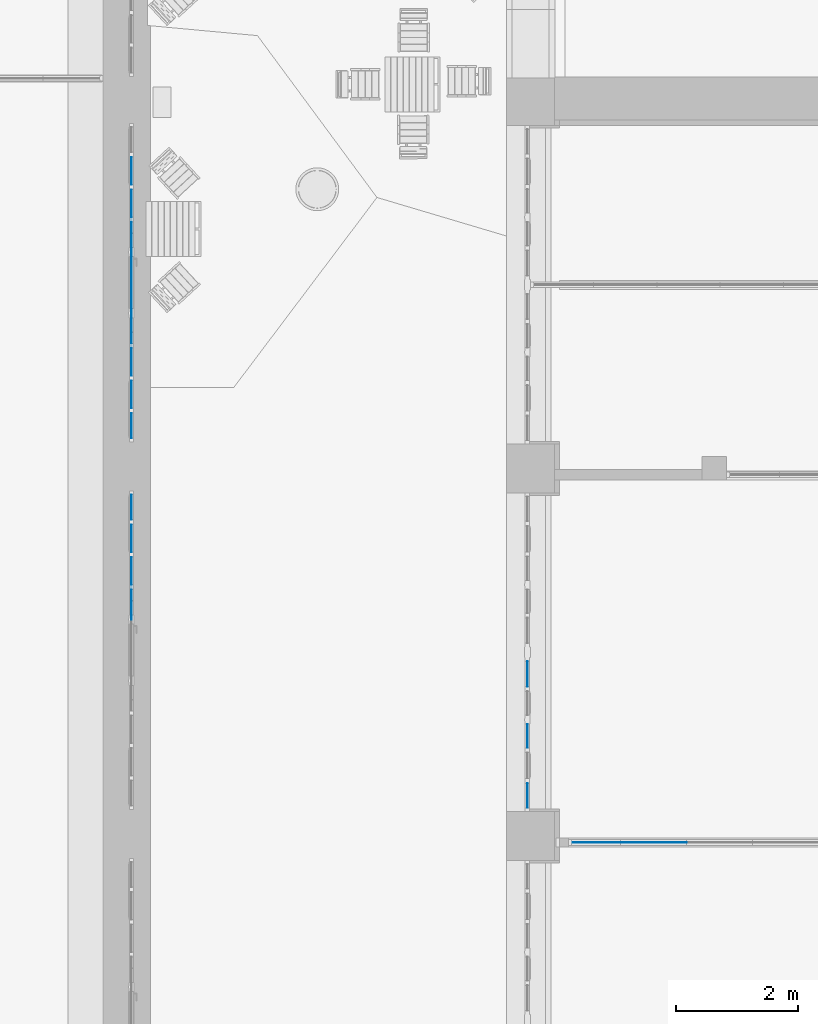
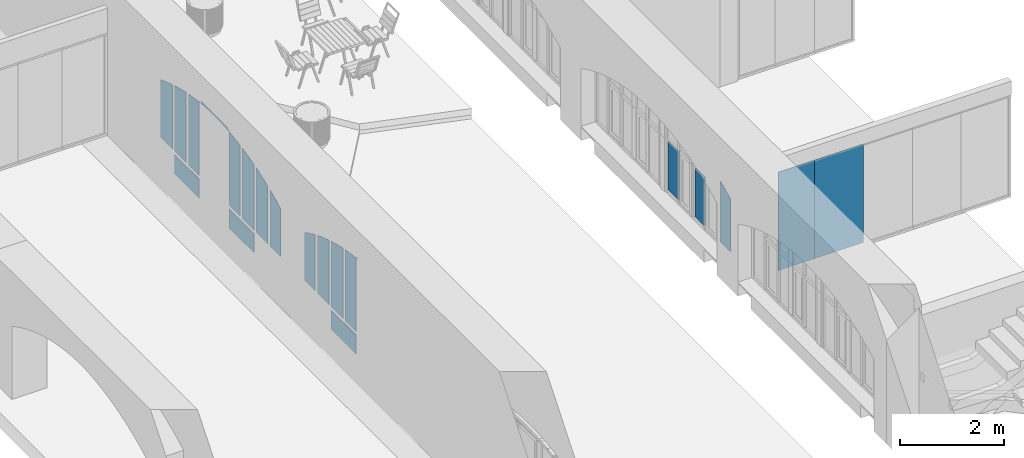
# One storey, part 64 of 88: 20 plates, 4 elements without a shape of their own.
"""IFC2X3 building model written with IfcOpenShell, lengths in millimetres."""

from ifc_helpers import new_model, entity, si_unit, converted_unit, derived_unit, direction, frame, frame_2d, origin, origin_2d_with_axis, place, context, subcontext, project, spatial, polyline, circle_curve, parameter, trimmed, segment, composite_curve, rectangle, outline, extrude, face_set, surface_model, source, transform, mapped, material, type_object, type_shapes, element, aggregate, save


model = new_model("IFC2X3")

# Units and contexts
model_context = context("Model", 3, precision=0.01, world=origin(), true_north=direction((6.123031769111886e-17, 1.0)))
body_context = subcontext(model_context, "Body", "Model", "MODEL_VIEW")
ifc_project = project(units=[si_unit("LENGTHUNIT", "METRE", prefix="MILLI"), si_unit("AREAUNIT", "SQUARE_METRE"), si_unit("VOLUMEUNIT", "CUBIC_METRE"), converted_unit("PLANEANGLEUNIT", "DEGREE", entity("IfcPlaneAngleMeasure", 0.017453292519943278), si_unit("PLANEANGLEUNIT", "RADIAN"), dimensions=[0, 0, 0, 0, 0, 0, 0]), si_unit("MASSUNIT", "GRAM", prefix="KILO"), derived_unit("MASSDENSITYUNIT", [(si_unit("MASSUNIT", "GRAM", prefix="KILO"), 1), (si_unit("LENGTHUNIT", "METRE"), -3)]), derived_unit("IONCONCENTRATIONUNIT", [(si_unit("MASSUNIT", "GRAM", prefix="KILO"), 1), (si_unit("LENGTHUNIT", "METRE"), -3)]), derived_unit("MOMENTOFINERTIAUNIT", [(si_unit("LENGTHUNIT", "METRE"), 4)]), si_unit("TIMEUNIT", "SECOND"), si_unit("FREQUENCYUNIT", "HERTZ"), si_unit("THERMODYNAMICTEMPERATUREUNIT", "DEGREE_CELSIUS"), derived_unit("THERMALTRANSMITTANCEUNIT", [(si_unit("MASSUNIT", "GRAM", prefix="KILO"), 1), (si_unit("THERMODYNAMICTEMPERATUREUNIT", "KELVIN"), -1), (si_unit("TIMEUNIT", "SECOND"), -3)]), derived_unit("THERMALCONDUCTANCEUNIT", [(si_unit("MASSUNIT", "GRAM", prefix="KILO"), 1), (si_unit("THERMODYNAMICTEMPERATUREUNIT", "KELVIN"), -1), (si_unit("TIMEUNIT", "SECOND"), -3), (si_unit("LENGTHUNIT", "METRE"), 1)]), derived_unit("VOLUMETRICFLOWRATEUNIT", [(si_unit("LENGTHUNIT", "METRE", prefix="DECI"), 3), (si_unit("TIMEUNIT", "SECOND"), -1)]), derived_unit("MASSFLOWRATEUNIT", [(si_unit("MASSUNIT", "GRAM", prefix="KILO"), 1), (si_unit("TIMEUNIT", "SECOND"), -1)]), derived_unit("ROTATIONALFREQUENCYUNIT", [(si_unit("TIMEUNIT", "SECOND"), -1)]), si_unit("ELECTRICCURRENTUNIT", "AMPERE"), si_unit("ELECTRICVOLTAGEUNIT", "VOLT"), si_unit("POWERUNIT", "WATT"), si_unit("FORCEUNIT", "NEWTON", prefix="KILO"), si_unit("ILLUMINANCEUNIT", "LUX"), si_unit("LUMINOUSFLUXUNIT", "LUMEN"), si_unit("LUMINOUSINTENSITYUNIT", "CANDELA"), si_unit("ENERGYUNIT", "JOULE"), derived_unit("USERDEFINED", [(si_unit("MASSUNIT", "GRAM", prefix="KILO"), -1), (si_unit("LENGTHUNIT", "METRE"), -2), (si_unit("TIMEUNIT", "SECOND"), 3), (si_unit("LUMINOUSFLUXUNIT", "LUMEN"), 1)]), derived_unit("USERDEFINED", [(si_unit("MASSUNIT", "GRAM", prefix="KILO"), 1), (si_unit("TIMEUNIT", "SECOND"), -3), (si_unit("LENGTHUNIT", "METRE"), 3), (si_unit("ELECTRICCURRENTUNIT", "AMPERE"), -2)]), derived_unit("SOUNDPOWERUNIT", [(si_unit("MASSUNIT", "GRAM", prefix="KILO"), 1), (si_unit("TIMEUNIT", "SECOND"), -3), (si_unit("LENGTHUNIT", "METRE"), 2)]), derived_unit("SOUNDPRESSUREUNIT", [(si_unit("MASSUNIT", "GRAM", prefix="KILO"), 1), (si_unit("LENGTHUNIT", "METRE"), -1), (si_unit("TIMEUNIT", "SECOND"), -2)]), derived_unit("LINEARVELOCITYUNIT", [(si_unit("LENGTHUNIT", "METRE"), 1), (si_unit("TIMEUNIT", "SECOND"), -1)]), si_unit("PRESSUREUNIT", "PASCAL"), derived_unit("USERDEFINED", [(si_unit("MASSUNIT", "GRAM", prefix="KILO"), 1), (si_unit("LENGTHUNIT", "METRE"), -2), (si_unit("TIMEUNIT", "SECOND"), -2)]), derived_unit("LINEARFORCEUNIT", [(si_unit("MASSUNIT", "GRAM", prefix="KILO"), 1), (si_unit("TIMEUNIT", "SECOND"), -2)]), derived_unit("PLANARFORCEUNIT", [(si_unit("MASSUNIT", "GRAM", prefix="KILO"), 1), (si_unit("LENGTHUNIT", "METRE"), -1), (si_unit("TIMEUNIT", "SECOND"), -2)]), derived_unit("SPECIFICHEATCAPACITYUNIT", [(si_unit("THERMODYNAMICTEMPERATUREUNIT", "KELVIN"), -1), (si_unit("LENGTHUNIT", "METRE"), 2), (si_unit("TIMEUNIT", "SECOND"), -2)]), derived_unit("HEATFLUXDENSITYUNIT", [(si_unit("MASSUNIT", "GRAM", prefix="KILO"), 1), (si_unit("TIMEUNIT", "SECOND"), -3)]), derived_unit("HEATINGVALUEUNIT", [(si_unit("LENGTHUNIT", "METRE"), 2), (si_unit("TIMEUNIT", "SECOND"), -2)]), derived_unit("VAPORPERMEABILITYUNIT", [(si_unit("LENGTHUNIT", "METRE"), -1), (si_unit("TIMEUNIT", "SECOND"), 1)]), derived_unit("DYNAMICVISCOSITYUNIT", [(si_unit("MASSUNIT", "GRAM", prefix="KILO"), 1), (si_unit("TIMEUNIT", "SECOND"), -1), (si_unit("LENGTHUNIT", "METRE"), -1)]), derived_unit("THERMALEXPANSIONCOEFFICIENTUNIT", [(si_unit("THERMODYNAMICTEMPERATUREUNIT", "KELVIN"), -1)]), derived_unit("MODULUSOFELASTICITYUNIT", [(si_unit("MASSUNIT", "GRAM", prefix="KILO"), 1), (si_unit("LENGTHUNIT", "METRE"), -1), (si_unit("TIMEUNIT", "SECOND"), -2)]), derived_unit("ISOTHERMALMOISTURECAPACITYUNIT", [(si_unit("MASSUNIT", "GRAM", prefix="KILO"), -1), (si_unit("LENGTHUNIT", "METRE"), 3)]), derived_unit("MOISTUREDIFFUSIVITYUNIT", [(si_unit("TIMEUNIT", "SECOND"), -1), (si_unit("LENGTHUNIT", "METRE"), 2)]), derived_unit("MASSPERLENGTHUNIT", [(si_unit("MASSUNIT", "GRAM", prefix="KILO"), 1), (si_unit("LENGTHUNIT", "METRE"), -1)]), derived_unit("THERMALRESISTANCEUNIT", [(si_unit("MASSUNIT", "GRAM", prefix="KILO"), -1), (si_unit("TIMEUNIT", "SECOND"), 3), (si_unit("THERMODYNAMICTEMPERATUREUNIT", "KELVIN"), 1)]), derived_unit("ACCELERATIONUNIT", [(si_unit("LENGTHUNIT", "METRE"), 1), (si_unit("TIMEUNIT", "SECOND"), -2)]), derived_unit("ANGULARVELOCITYUNIT", [(si_unit("TIMEUNIT", "SECOND"), -1), (si_unit("PLANEANGLEUNIT", "RADIAN"), 1)]), derived_unit("LINEARSTIFFNESSUNIT", [(si_unit("MASSUNIT", "GRAM", prefix="KILO"), 1), (si_unit("TIMEUNIT", "SECOND"), -2)]), derived_unit("WARPINGCONSTANTUNIT", [(si_unit("LENGTHUNIT", "METRE"), 6)]), derived_unit("LINEARMOMENTUNIT", [(si_unit("MASSUNIT", "GRAM", prefix="KILO"), 1), (si_unit("LENGTHUNIT", "METRE"), 1), (si_unit("TIMEUNIT", "SECOND"), -2)]), derived_unit("TORQUEUNIT", [(si_unit("MASSUNIT", "GRAM", prefix="KILO"), 1), (si_unit("LENGTHUNIT", "METRE"), 2), (si_unit("TIMEUNIT", "SECOND"), -2)])], contexts=[model_context])

# Site, building, storey
site_placement = place(None, origin())
site = spatial("IfcSite", under=ifc_project, at=site_placement, Name="Default", CompositionType="ELEMENT")
building_placement = place(site_placement, origin())
building = spatial("IfcBuilding", under=site, at=building_placement, Name="Eesti Rahvusraamatukogu hoone renoveerimise projekteerimistööd", CompositionType="ELEMENT")
storey_placement = place(building_placement, origin())
storey = spatial("IfcBuildingStorey", under=building, at=storey_placement, Name="1. korrus", CompositionType="ELEMENT", Elevation=0.0)

# Curtain wall, plates
curtain_wall_type_1 = type_object("IfcCurtainWallType", Name="Curtain Wall:Ak-02", PredefinedType="NOTDEFINED")
curtain_wall_1_placement = place(storey_placement, origin())
curtain_wall_1 = element("IfcCurtainWall", 1, at=curtain_wall_1_placement, inside=storey, type_object=curtain_wall_type_1, Name="Curtain Wall:Ak-02", ObjectType="Curtain Wall:Ak-02")
ifc_material_1 = material(Name="EST. Klaas. 3x. Default")
plate_type_1 = type_object("IfcPlateType", Name="System Panel:Peegelaknad 6-16-4-16-4, paneel", PredefinedType="CURTAIN_PANEL", material=ifc_material_1)
shared_shape_1 = source(origin(), body_context, "Body", "SweptSolid", [
    extrude(rectangle(XDim=10.0, YDim=384.9999999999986, at=origin_2d_with_axis()), frame((0.0, 0.0, 0.0), z_axis=(0.0, 0.0, 1.0), x_axis=(0.0, 1.0, 0.0)), (0.0, 0.0, 1.0), 1150.0000000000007),
])
type_shapes(plate_type_1, [shared_shape_1])
plate_1_placement = place(curtain_wall_1_placement, frame((-36440.0, 38022.499999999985, 2040.0), z_axis=(0.0, 0.0, 1.0), x_axis=(0.0, -1.0, 0.0)))
plate_1 = element("IfcPlate", 2, at=plate_1_placement, type_object=plate_type_1, material=ifc_material_1, Name="System Panel:Peegelaknad 6-16-4-16-4, paneel", ObjectType="System Panel:Peegelaknad 6-16-4-16-4, paneel", context=body_context, shape_type="MappedRepresentation", body=[
    mapped(shared_shape_1, transform((0.0, 0.0, 0.0), scale=1.0)),
])
plate_type_2 = type_object("IfcPlateType", Name="System Panel:Peegelaknad 6-16-4-16-4, paneel", PredefinedType="CURTAIN_PANEL", material=ifc_material_1)
shared_shape_2 = source(origin(), body_context, "Body", "SweptSolid", [
    extrude(rectangle(XDim=10.0, YDim=409.9999999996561, at=origin_2d_with_axis()), frame((0.0, 0.0, 0.0), z_axis=(0.0, 0.0, 1.0), x_axis=(0.0, 1.0, 0.0)), (0.0, 0.0, 1.0), 1150.0000000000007),
])
type_shapes(plate_type_2, [shared_shape_2])
plate_2_placement = place(curtain_wall_1_placement, frame((-36440.0, 39035.0, 2040.0), z_axis=(0.0, 0.0, 1.0), x_axis=(0.0, -1.0, 0.0)))
plate_2 = element("IfcPlate", 3, at=plate_2_placement, type_object=plate_type_2, material=ifc_material_1, Name="System Panel:Peegelaknad 6-16-4-16-4, paneel", ObjectType="System Panel:Peegelaknad 6-16-4-16-4, paneel", context=body_context, shape_type="MappedRepresentation", body=[
    mapped(shared_shape_2, transform((0.0, 0.0, 0.0), scale=1.0)),
])
plate_type_3 = type_object("IfcPlateType", Name="System Panel:Peegelaknad 6-16-4-16-4, paneel", PredefinedType="CURTAIN_PANEL", material=ifc_material_1)
shared_shape_3 = source(origin(), body_context, "Body", "SweptSolid", [
    extrude(outline(composite_curve([segment(polyline([(-838.8855000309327, 200.0), (-838.8855000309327, -200.0)]), True, "CONTINUOUS"), segment(polyline([(-838.8855000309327, -200.0), (351.11449996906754, -200.0)]), True, "CONTINUOUS"), segment(polyline([(351.11449996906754, -200.0), (392.39316487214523, -200.0)]), True, "CONTINUOUS"), segment(trimmed(circle_curve(frame_2d((-4419.029401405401, 2340.0), x_axis=(0.8821580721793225, -0.4709534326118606)), 5440.715680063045), [parameter(0.2661645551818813)], [parameter(4.934304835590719)], True, "PARAMETER"), True, "CONTINUOUS"), segment(polyline([(583.1488352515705, 200.0), (351.11449996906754, 200.0)]), True, "CONTINUOUS"), segment(polyline([(351.11449996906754, 200.0), (-838.8855000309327, 200.0)]), True, "CONTINUOUS")], self_intersect=False)), frame((0.0, -5.0, 838.8855000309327), z_axis=(0.0, -1.0, 0.0), x_axis=(0.0, 0.0, 1.0)), (0.0, 0.0, -1.0), 10.0),
])
type_shapes(plate_type_3, [shared_shape_3])
plate_3_placement = place(curtain_wall_1_placement, frame((-36440.0, 37050.0, 2040.0), z_axis=(0.0, 0.0, 1.0), x_axis=(0.0, -1.0, 0.0)))
plate_3 = element("IfcPlate", 4, at=plate_3_placement, type_object=plate_type_3, material=ifc_material_1, Name="System Panel:Peegelaknad 6-16-4-16-4, paneel", ObjectType="System Panel:Peegelaknad 6-16-4-16-4, paneel", context=body_context, shape_type="MappedRepresentation", body=[
    mapped(shared_shape_3, transform((0.0, 0.0, 0.0), scale=1.0)),
])
aggregate(curtain_wall_1, [plate_2, plate_1, plate_3])

# Curtain wall, plate
curtain_wall_type_2 = type_object("IfcCurtainWallType", Name="Curtain Wall:Ak-05", PredefinedType="NOTDEFINED")
curtain_wall_2_placement = place(storey_placement, origin())
curtain_wall_2 = element("IfcCurtainWall", 5, at=curtain_wall_2_placement, inside=storey, type_object=curtain_wall_type_2, Name="Curtain Wall:Ak-05", ObjectType="Curtain Wall:Ak-05")
plate_type_4 = type_object("IfcPlateType", Name="System Panel:Peegelaknad 6-16-4-16-4, paneel", PredefinedType="CURTAIN_PANEL", material=ifc_material_1)
shared_shape_4 = source(origin(), body_context, "Body", "SweptSolid", [
    extrude(rectangle(XDim=450.00000000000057, YDim=944.9999999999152, at=frame_2d((0.0, -5.833333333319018), x_axis=(1.0, 0.0))), frame((5.833333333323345, -5.0, 225.0), z_axis=(0.0, 1.0, 0.0), x_axis=(0.0, 0.0, 1.0)), (0.0, 0.0, 1.0), 10.0),
])
type_shapes(plate_type_4, [shared_shape_4])
plate_4_placement = place(curtain_wall_2_placement, frame((-42905.0, 46472.49999999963, 10.0), z_axis=(0.0, 0.0, 1.0), x_axis=(0.0, -1.0, 0.0)))
plate_4 = element("IfcPlate", 6, at=plate_4_placement, type_object=plate_type_4, material=ifc_material_1, Name="System Panel:Peegelaknad 6-16-4-16-4, paneel", ObjectType="System Panel:Peegelaknad 6-16-4-16-4, paneel", context=body_context, shape_type="MappedRepresentation", body=[
    mapped(shared_shape_4, transform((0.0, 0.0, 0.0), scale=1.0)),
])

curtain_wall_3_placement = place(storey_placement, origin())
curtain_wall_3 = element("IfcCurtainWall", 7, at=curtain_wall_3_placement, inside=storey, type_object=curtain_wall_type_2, Name="Curtain Wall:Ak-05", ObjectType="Curtain Wall:Ak-05")
plate_5_placement = place(curtain_wall_3_placement, frame((-42905.0, 40472.49999999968, 10.0), z_axis=(0.0, 0.0, 1.0), x_axis=(0.0, -1.0, 0.0)))
plate_5 = element("IfcPlate", 8, at=plate_5_placement, type_object=plate_type_4, material=ifc_material_1, Name="System Panel:Peegelaknad 6-16-4-16-4, paneel", ObjectType="System Panel:Peegelaknad 6-16-4-16-4, paneel", context=body_context, shape_type="MappedRepresentation", body=[
    mapped(shared_shape_4, transform((0.0, 0.0, 0.0), scale=1.0)),
])

# Plate
plate_type_5 = type_object("IfcPlateType", Name="System Panel:Peegelaknad 6-16-4-16-4, paneel", PredefinedType="CURTAIN_PANEL", material=ifc_material_1)
shared_shape_5 = source(origin(), body_context, "Body", "SweptSolid", [
    extrude(rectangle(XDim=450.00000000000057, YDim=945.0000000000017, at=frame_2d((0.0, 5.833333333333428), x_axis=(1.0, 0.0))), frame((-5.8333333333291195, -5.0, 225.0), z_axis=(0.0, 1.0, 0.0), x_axis=(0.0, 0.0, 1.0)), (0.0, 0.0, 1.0), 10.0),
])
type_shapes(plate_type_5, [shared_shape_5])
plate_6_placement = place(curtain_wall_2_placement, frame((-42905.0, 44377.49999999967, 10.0), z_axis=(0.0, 0.0, 1.0), x_axis=(0.0, -1.0, 0.0)))
plate_6 = element("IfcPlate", 9, at=plate_6_placement, type_object=plate_type_5, material=ifc_material_1, Name="System Panel:Peegelaknad 6-16-4-16-4, paneel", ObjectType="System Panel:Peegelaknad 6-16-4-16-4, paneel", context=body_context, shape_type="MappedRepresentation", body=[
    mapped(shared_shape_5, transform((0.0, 0.0, 0.0), scale=1.0)),
])

plate_type_6 = type_object("IfcPlateType", Name="System Panel:Peegelaknad 6-16-4-16-4, paneel", PredefinedType="CURTAIN_PANEL", material=ifc_material_1)
shared_shape_6 = source(origin(), body_context, "Body", "SweptSolid", [
    extrude(outline(composite_curve([segment(polyline([(-610.3301409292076, -205.0), (513.3133718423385, -205.0)]), True, "CONTINUOUS"), segment(trimmed(circle_curve(frame_2d((-4323.610707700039, 2335.0), x_axis=(0.9256428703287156, -0.37839830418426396)), 5463.280566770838), [parameter(354.5293230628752)], [parameter(359.2877436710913)], True, "PARAMETER"), True, "CONTINUOUS"), segment(polyline([(707.3469100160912, 205.0), (-610.3301409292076, 205.0)]), True, "CONTINUOUS"), segment(polyline([(-610.3301409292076, 205.0), (-610.3301409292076, -205.0)]), True, "CONTINUOUS")], self_intersect=False)), frame((0.0, -5.0, 610.3301409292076), z_axis=(0.0, 1.0, 0.0), x_axis=(0.0, 0.0, 1.0)), (0.0, 0.0, 1.0), 10.0),
])
type_shapes(plate_type_6, [shared_shape_6])
plate_7_placement = place(curtain_wall_3_placement, frame((-42905.0, 41760.0, 540.0), z_axis=(0.0, 0.0, 1.0), x_axis=(0.0, -1.0, 0.0)))
plate_7 = element("IfcPlate", 10, at=plate_7_placement, type_object=plate_type_6, material=ifc_material_1, Name="System Panel:Peegelaknad 6-16-4-16-4, paneel", ObjectType="System Panel:Peegelaknad 6-16-4-16-4, paneel", context=body_context, shape_type="MappedRepresentation", body=[
    mapped(shared_shape_6, transform((0.0, 0.0, 0.0), scale=1.0)),
])

plate_type_7 = type_object("IfcPlateType", Name="System Panel:Peegelaknad 6-16-4-16-4, paneel", PredefinedType="CURTAIN_PANEL", material=ifc_material_1)
shared_shape_7 = source(origin(), body_context, "Body", "SweptSolid", [
    extrude(outline(composite_curve([segment(polyline([(-715.3148161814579, -225.0), (635.487411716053, -225.0)]), True, "CONTINUOUS"), segment(trimmed(circle_curve(frame_2d((-4428.595382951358, 1825.0), x_axis=(0.9592847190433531, -0.2824408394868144)), 5463.280566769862), [parameter(354.3672571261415)], [parameter(359.3764184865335)], True, "PARAMETER"), True, "CONTINUOUS"), segment(polyline([(795.1422206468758, 225.0), (-715.3148161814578, 225.0)]), True, "CONTINUOUS"), segment(polyline([(-715.3148161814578, 225.0), (-715.3148161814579, -225.0)]), True, "CONTINUOUS")], self_intersect=False)), frame((0.0, -5.0, 715.3148161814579), z_axis=(0.0, 1.0, 0.0), x_axis=(0.0, 0.0, 1.0)), (0.0, 0.0, 1.0), 10.0),
])
type_shapes(plate_type_7, [shared_shape_7])
plate_8_placement = place(curtain_wall_2_placement, frame((-42905.0, 47250.0, 540.0), z_axis=(0.0, 0.0, 1.0), x_axis=(0.0, -1.0, 0.0)))
plate_8 = element("IfcPlate", 11, at=plate_8_placement, type_object=plate_type_7, material=ifc_material_1, Name="System Panel:Peegelaknad 6-16-4-16-4, paneel", ObjectType="System Panel:Peegelaknad 6-16-4-16-4, paneel", context=body_context, shape_type="MappedRepresentation", body=[
    mapped(shared_shape_7, transform((0.0, 0.0, 0.0), scale=1.0)),
])

plate_9_placement = place(curtain_wall_3_placement, frame((-42905.0, 41250.0, 540.0), z_axis=(0.0, 0.0, 1.0), x_axis=(0.0, -1.0, 0.0)))
plate_9 = element("IfcPlate", 12, at=plate_9_placement, type_object=plate_type_7, material=ifc_material_1, Name="System Panel:Peegelaknad 6-16-4-16-4, paneel", ObjectType="System Panel:Peegelaknad 6-16-4-16-4, paneel", context=body_context, shape_type="MappedRepresentation", body=[
    mapped(shared_shape_7, transform((0.0, 0.0, 0.0), scale=1.0)),
])

plate_type_8 = type_object("IfcPlateType", Name="System Panel:Peegelaknad 6-16-4-16-4, paneel", PredefinedType="CURTAIN_PANEL", material=ifc_material_1)
shared_shape_8 = source(origin(), body_context, "Body", "SweptSolid", [
    extrude(outline(composite_curve([segment(polyline([(-794.6219170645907, -225.0), (739.6716748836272, -225.0)]), True, "CONTINUOUS"), segment(trimmed(circle_curve(frame_2d((-4507.902483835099, 1295.0), x_axis=(0.9824581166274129, -0.18648337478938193)), 5463.2805667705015), [parameter(354.5935648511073)], [parameter(359.45306970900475)], True, "PARAMETER"), True, "CONTINUOUS"), segment(polyline([(849.5721592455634, 225.0), (-794.6219170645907, 225.0)]), True, "CONTINUOUS"), segment(polyline([(-794.6219170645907, 225.0), (-794.6219170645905, -225.0)]), True, "CONTINUOUS")], self_intersect=False)), frame((0.0, -5.0, 794.6219170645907), z_axis=(0.0, 1.0, 0.0), x_axis=(0.0, 0.0, 1.0)), (0.0, 0.0, 1.0), 10.0),
])
type_shapes(plate_type_8, [shared_shape_8])
plate_10_placement = place(curtain_wall_2_placement, frame((-42905.0, 46720.0, 540.0), z_axis=(0.0, 0.0, 1.0), x_axis=(0.0, -1.0, 0.0)))
plate_10 = element("IfcPlate", 13, at=plate_10_placement, type_object=plate_type_8, material=ifc_material_1, Name="System Panel:Peegelaknad 6-16-4-16-4, paneel", ObjectType="System Panel:Peegelaknad 6-16-4-16-4, paneel", context=body_context, shape_type="MappedRepresentation", body=[
    mapped(shared_shape_8, transform((0.0, 0.0, 0.0), scale=1.0)),
])

plate_11_placement = place(curtain_wall_3_placement, frame((-42905.0, 40720.0, 540.0), z_axis=(0.0, 0.0, 1.0), x_axis=(0.0, -1.0, 0.0)))
plate_11 = element("IfcPlate", 14, at=plate_11_placement, type_object=plate_type_8, material=ifc_material_1, Name="System Panel:Peegelaknad 6-16-4-16-4, paneel", ObjectType="System Panel:Peegelaknad 6-16-4-16-4, paneel", context=body_context, shape_type="MappedRepresentation", body=[
    mapped(shared_shape_8, transform((0.0, 0.0, 0.0), scale=1.0)),
])

plate_type_9 = type_object("IfcPlateType", Name="System Panel:Peegelaknad 6-16-4-16-4, paneel", PredefinedType="CURTAIN_PANEL", material=ifc_material_1)
shared_shape_9 = source(origin(), body_context, "Body", "SurfaceModel", [
    surface_model("IfcFaceBasedSurfaceModel", [(-245.0, -5.0, 0.0), (170.0, -5.0, 0.0), (170.0, -5.0, 1750.0), (245.0, -5.0, 1750.0), (245.0, -5.0, 1727.0718621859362), (93.20177957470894, -5.0, 1710.979164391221), (-58.08758672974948, -5.0, 1690.6517865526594), (-151.67863011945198, -5.0, 1675.9125069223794), (-245.0, -5.0, 1659.5524430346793), (-245.0, 5.0, 0.0), (-245.0, 5.0, 1659.5524430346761), (-151.67863011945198, 5.0, 1675.9125069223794), (-58.08758672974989, 5.0, 1690.6517865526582), (93.20177957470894, 5.0, 1710.979164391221), (245.0, 5.0, 1727.071862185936), (245.0, 5.0, 1750.0), (170.0, 5.0, 1750.0), (170.0, 5.0, 0.0)], [face_set([[[0, 1, 2, 3, 4, 5, 6, 7, 8]], [[9, 10, 11, 12, 13, 14, 15, 16, 17]], [[1, 0, 9, 17]], [[2, 1, 17, 16]], [[3, 15, 16, 2]], [[4, 14, 15, 3]], [[5, 4, 14, 13]], [[12, 6, 5, 13]], [[7, 6, 12, 11]], [[10, 8, 7, 11]], [[0, 8, 10, 9]]])]),
])
type_shapes(plate_type_9, [shared_shape_9])
plate_12_placement = place(curtain_wall_2_placement, frame((-42905.0, 46170.0, 540.0), z_axis=(0.0, 0.0, 1.0), x_axis=(0.0, -1.0, 0.0)))
plate_12 = element("IfcPlate", 15, at=plate_12_placement, type_object=plate_type_9, material=ifc_material_1, Name="System Panel:Peegelaknad 6-16-4-16-4, paneel", ObjectType="System Panel:Peegelaknad 6-16-4-16-4, paneel", context=body_context, shape_type="MappedRepresentation", body=[
    mapped(shared_shape_9, transform((0.0, 0.0, 0.0), scale=1.0)),
])

plate_13_placement = place(curtain_wall_3_placement, frame((-42905.0, 40170.0, 540.0), z_axis=(0.0, 0.0, 1.0), x_axis=(0.0, -1.0, 0.0)))
plate_13 = element("IfcPlate", 16, at=plate_13_placement, type_object=plate_type_9, material=ifc_material_1, Name="System Panel:Peegelaknad 6-16-4-16-4, paneel", ObjectType="System Panel:Peegelaknad 6-16-4-16-4, paneel", context=body_context, shape_type="MappedRepresentation", body=[
    mapped(shared_shape_9, transform((0.0, 0.0, 0.0), scale=1.0)),
])

aggregate(curtain_wall_3, [plate_5, plate_7, plate_9, plate_11, plate_13])

plate_type_10 = type_object("IfcPlateType", Name="System Panel:Peegelaknad 6-16-4-16-4, paneel", PredefinedType="CURTAIN_PANEL", material=ifc_material_1)
shared_shape_10 = source(origin(), body_context, "Body", "SurfaceModel", [
    surface_model("IfcFaceBasedSurfaceModel", [(-170.0, -5.0, 0.0), (245.0, -5.0, 0.0), (245.0, -5.0, 1659.5524430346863), (151.67863011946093, -5.0, 1675.9125069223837), (58.08758672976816, -5.0, 1690.6517865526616), (-93.2017795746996, -5.0, 1710.979164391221), (-245.0, -5.0, 1727.071862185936), (-245.0, -5.0, 1750.0), (-170.0, -5.0, 1750.0), (-170.0, 5.0, 0.0), (245.0, 5.0, 0.0), (245.0, 5.0, 1659.552443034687), (151.67863011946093, 5.0, 1675.9125069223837), (58.08758672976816, 5.0, 1690.6517865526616), (-93.2017795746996, 5.0, 1710.979164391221), (-245.0, 5.0, 1727.071862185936), (-245.0, 5.0, 1750.0), (-170.0, 5.0, 1750.0)], [face_set([[[0, 1, 2, 3, 4, 5, 6, 7, 8]], [[9, 10, 11, 12, 13, 14, 15, 16, 17]], [[1, 0, 9, 10]], [[2, 1, 10, 11]], [[3, 2, 11, 12]], [[13, 4, 3, 12]], [[4, 13, 14, 5]], [[15, 6, 5, 14]], [[7, 16, 15, 6]], [[8, 17, 16, 7]], [[0, 8, 17, 9]]])]),
])
type_shapes(plate_type_10, [shared_shape_10])
plate_14_placement = place(curtain_wall_2_placement, frame((-42905.0, 44680.0, 540.0), z_axis=(0.0, 0.0, 1.0), x_axis=(0.0, -1.0, 0.0)))
plate_14 = element("IfcPlate", 17, at=plate_14_placement, type_object=plate_type_10, material=ifc_material_1, Name="System Panel:Peegelaknad 6-16-4-16-4, paneel", ObjectType="System Panel:Peegelaknad 6-16-4-16-4, paneel", context=body_context, shape_type="MappedRepresentation", body=[
    mapped(shared_shape_10, transform((0.0, 0.0, 0.0), scale=1.0)),
])

plate_type_11 = type_object("IfcPlateType", Name="System Panel:Peegelaknad 6-16-4-16-4, paneel", PredefinedType="CURTAIN_PANEL", material=ifc_material_1)
shared_shape_11 = source(origin(), body_context, "Body", "SweptSolid", [
    extrude(outline(composite_curve([segment(polyline([(-794.621917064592, 225.0), (-794.621917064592, -225.0)]), True, "CONTINUOUS"), segment(polyline([(-794.621917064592, -225.0), (739.6716748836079, -225.0)]), True, "CONTINUOUS"), segment(trimmed(circle_curve(frame_2d((-4507.902483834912, 1295.0), x_axis=(0.9592847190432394, -0.2824408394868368)), 5463.280566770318), [parameter(0.25187197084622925)], [parameter(5.111376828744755)], True, "PARAMETER"), True, "CONTINUOUS"), segment(polyline([(849.5721592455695, 225.0), (-794.621917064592, 225.0)]), True, "CONTINUOUS")], self_intersect=False)), frame((0.0, -5.0, 794.621917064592), z_axis=(0.0, -1.0, 0.0), x_axis=(0.0, 0.0, 1.0)), (0.0, 0.0, -1.0), 10.0),
])
type_shapes(plate_type_11, [shared_shape_11])
plate_15_placement = place(curtain_wall_2_placement, frame((-42905.0, 44130.0, 540.0), z_axis=(0.0, 0.0, 1.0), x_axis=(0.0, -1.0, 0.0)))
plate_15 = element("IfcPlate", 18, at=plate_15_placement, type_object=plate_type_11, material=ifc_material_1, Name="System Panel:Peegelaknad 6-16-4-16-4, paneel", ObjectType="System Panel:Peegelaknad 6-16-4-16-4, paneel", context=body_context, shape_type="MappedRepresentation", body=[
    mapped(shared_shape_11, transform((0.0, 0.0, 0.0), scale=1.0)),
])

plate_type_12 = type_object("IfcPlateType", Name="System Panel:Peegelaknad 6-16-4-16-4, paneel", PredefinedType="CURTAIN_PANEL", material=ifc_material_1)
shared_shape_12 = source(origin(), body_context, "Body", "SweptSolid", [
    extrude(outline(composite_curve([segment(polyline([(-715.3148161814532, 225.0), (-715.3148161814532, -225.0)]), True, "CONTINUOUS"), segment(polyline([(-715.3148161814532, -225.0), (635.4874117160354, -225.0)]), True, "CONTINUOUS"), segment(trimmed(circle_curve(frame_2d((-4428.59538295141, 1825.0), x_axis=(0.9256428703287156, -0.3783983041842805)), 5463.280566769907), [parameter(0.19582649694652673)], [parameter(5.204987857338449)], True, "PARAMETER"), True, "CONTINUOUS"), segment(polyline([(795.1422206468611, 225.0), (-715.3148161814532, 225.0)]), True, "CONTINUOUS")], self_intersect=False)), frame((0.0, -5.0, 715.3148161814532), z_axis=(0.0, -1.0, 0.0), x_axis=(0.0, 0.0, 1.0)), (0.0, 0.0, -1.0), 10.0),
])
type_shapes(plate_type_12, [shared_shape_12])
plate_16_placement = place(curtain_wall_2_placement, frame((-42905.0, 43600.0, 540.0), z_axis=(0.0, 0.0, 1.0), x_axis=(0.0, -1.0, 0.0)))
plate_16 = element("IfcPlate", 19, at=plate_16_placement, type_object=plate_type_12, material=ifc_material_1, Name="System Panel:Peegelaknad 6-16-4-16-4, paneel", ObjectType="System Panel:Peegelaknad 6-16-4-16-4, paneel", context=body_context, shape_type="MappedRepresentation", body=[
    mapped(shared_shape_12, transform((0.0, 0.0, 0.0), scale=1.0)),
])

plate_type_13 = type_object("IfcPlateType", Name="System Panel:Peegelaknad 6-16-4-16-4, paneel", PredefinedType="CURTAIN_PANEL", material=ifc_material_1)
shared_shape_13 = source(origin(), body_context, "Body", "SweptSolid", [
    extrude(outline(composite_curve([segment(polyline([(-610.3301409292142, 205.0), (-610.3301409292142, -205.0)]), True, "CONTINUOUS"), segment(polyline([(-610.3301409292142, -205.0), (513.3133718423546, -205.0)]), True, "CONTINUOUS"), segment(trimmed(circle_curve(frame_2d((-4323.610707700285, 2335.0), x_axis=(0.8822747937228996, -0.4707347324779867)), 5463.280566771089), [parameter(0.37681807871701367)], [parameter(5.135238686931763)], True, "PARAMETER"), True, "CONTINUOUS"), segment(polyline([(707.3469100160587, 205.0), (-610.3301409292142, 205.0)]), True, "CONTINUOUS")], self_intersect=False)), frame((0.0, -5.0, 610.3301409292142), z_axis=(0.0, -1.0, 0.0), x_axis=(0.0, 0.0, 1.0)), (0.0, 0.0, -1.0), 10.0),
])
type_shapes(plate_type_13, [shared_shape_13])
plate_17_placement = place(curtain_wall_2_placement, frame((-42905.0, 43090.0, 540.0), z_axis=(0.0, 0.0, 1.0), x_axis=(0.0, -1.0, 0.0)))
plate_17 = element("IfcPlate", 20, at=plate_17_placement, type_object=plate_type_13, material=ifc_material_1, Name="System Panel:Peegelaknad 6-16-4-16-4, paneel", ObjectType="System Panel:Peegelaknad 6-16-4-16-4, paneel", context=body_context, shape_type="MappedRepresentation", body=[
    mapped(shared_shape_13, transform((0.0, 0.0, 0.0), scale=1.0)),
])

ifc_material_2 = material(Name="<Unnamed>")
plate_type_14 = type_object("IfcPlateType", Name="System Panel:Peegelaknad 6-16-4-16-4, paneel", PredefinedType="CURTAIN_PANEL", material=ifc_material_2)
shared_shape_14 = source(origin(), body_context, "Body", "SweptSolid", [
    extrude(outline(composite_curve([segment(polyline([(18.907544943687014, -500.34273422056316), (71.61836514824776, -495.5513663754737)]), True, "CONTINUOUS"), segment(polyline([(71.61836514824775, -495.5513663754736), (-18.907544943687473, 500.3427342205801)]), True, "CONTINUOUS"), segment(polyline([(-18.907544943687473, 500.3427342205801), (-71.61836514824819, 495.5513663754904)]), True, "CONTINUOUS"), segment(trimmed(circle_curve(frame_2d((-5444.3702992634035, -494.8885387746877), x_axis=(1.0, 0.0)), 5463.280566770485), [parameter(359.94279949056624)], [parameter(10.444926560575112)], True, "PARAMETER"), False, "CONTINUOUS")], self_intersect=False)), frame((0.0, -5.0, 26.46406890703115), z_axis=(0.0, -1.0, 0.0), x_axis=(0.0905259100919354, 0.0, 0.9958941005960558)), (0.0, 0.0, -1.0), 10.0),
])
type_shapes(plate_type_14, [shared_shape_14])
plate_18_placement = place(curtain_wall_2_placement, frame((-42905.0, 45425.0, 2267.0718621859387), z_axis=(0.0, 0.0, 1.0), x_axis=(0.0, -1.0, 0.0)))
plate_18 = element("IfcPlate", 21, at=plate_18_placement, type_object=plate_type_14, material=ifc_material_2, Name="System Panel:Peegelaknad 6-16-4-16-4, paneel", ObjectType="System Panel:Peegelaknad 6-16-4-16-4, paneel", context=body_context, shape_type="MappedRepresentation", body=[
    mapped(shared_shape_14, transform((0.0, 0.0, 0.0), scale=1.0)),
])

aggregate(curtain_wall_2, [plate_4, plate_6, plate_8, plate_10, plate_12, plate_14, plate_15, plate_16, plate_17, plate_18])

# Curtain wall, plates
curtain_wall_type_3 = type_object("IfcCurtainWallType", Name="Curtain Wall:VLS Klaasvahesein profiilita 38db", PredefinedType="NOTDEFINED")
curtain_wall_4_placement = place(storey_placement, origin())
curtain_wall_4 = element("IfcCurtainWall", 22, at=curtain_wall_4_placement, inside=storey, type_object=curtain_wall_type_3, Name="Curtain Wall:VLS Klaasvahesein profiilita 38db", ObjectType="Curtain Wall:VLS Klaasvahesein profiilita 38db")
ifc_material_3 = material(Name="EST. Klaas. 1x. E-korpus")
plate_type_15 = type_object("IfcPlateType", Name="System Panel:VLS Klaas KAR/LAM 6+1+6", PredefinedType="CURTAIN_PANEL", material=ifc_material_3)
shared_shape_15 = source(origin(), body_context, "Body", "SweptSolid", [
    extrude(rectangle(XDim=13.000000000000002, YDim=795.4999999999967, at=origin_2d_with_axis()), frame((0.0, 0.0, 0.0), z_axis=(0.0, 0.0, 1.0), x_axis=(0.0, 1.0, 0.0)), (0.0, 0.0, 1.0), 2300.0),
])
type_shapes(plate_type_15, [shared_shape_15])
plate_19_placement = place(curtain_wall_4_placement, frame((-35317.7500000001, 36284.74185018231, 1700.0)))
plate_19 = element("IfcPlate", 23, at=plate_19_placement, type_object=plate_type_15, material=ifc_material_3, Name="System Panel:VLS Klaas KAR/LAM 6+1+6", ObjectType="System Panel:VLS Klaas KAR/LAM 6+1+6", context=body_context, shape_type="MappedRepresentation", body=[
    mapped(shared_shape_15, transform((0.0, 0.0, 0.0), scale=1.0)),
])
plate_type_16 = type_object("IfcPlateType", Name="System Panel:VLS Klaas KAR/LAM 6+1+6", PredefinedType="CURTAIN_PANEL", material=ifc_material_3)
shared_shape_16 = source(origin(), body_context, "Body", "SweptSolid", [
    extrude(rectangle(XDim=13.000000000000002, YDim=1080.0000000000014, at=origin_2d_with_axis()), frame((0.0, 0.0, 0.0), z_axis=(0.0, 0.0, 1.0), x_axis=(0.0, 1.0, 0.0)), (0.0, 0.0, 1.0), 2300.0),
])
type_shapes(plate_type_16, [shared_shape_16])
plate_20_placement = place(curtain_wall_4_placement, frame((-34380.0, 36284.74185018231, 1700.0)))
plate_20 = element("IfcPlate", 24, at=plate_20_placement, type_object=plate_type_16, material=ifc_material_3, Name="System Panel:VLS Klaas KAR/LAM 6+1+6", ObjectType="System Panel:VLS Klaas KAR/LAM 6+1+6", context=body_context, shape_type="MappedRepresentation", body=[
    mapped(shared_shape_16, transform((0.0, 0.0, 0.0), scale=1.0)),
])
aggregate(curtain_wall_4, [plate_19, plate_20])

save(model, "model.ifc")
